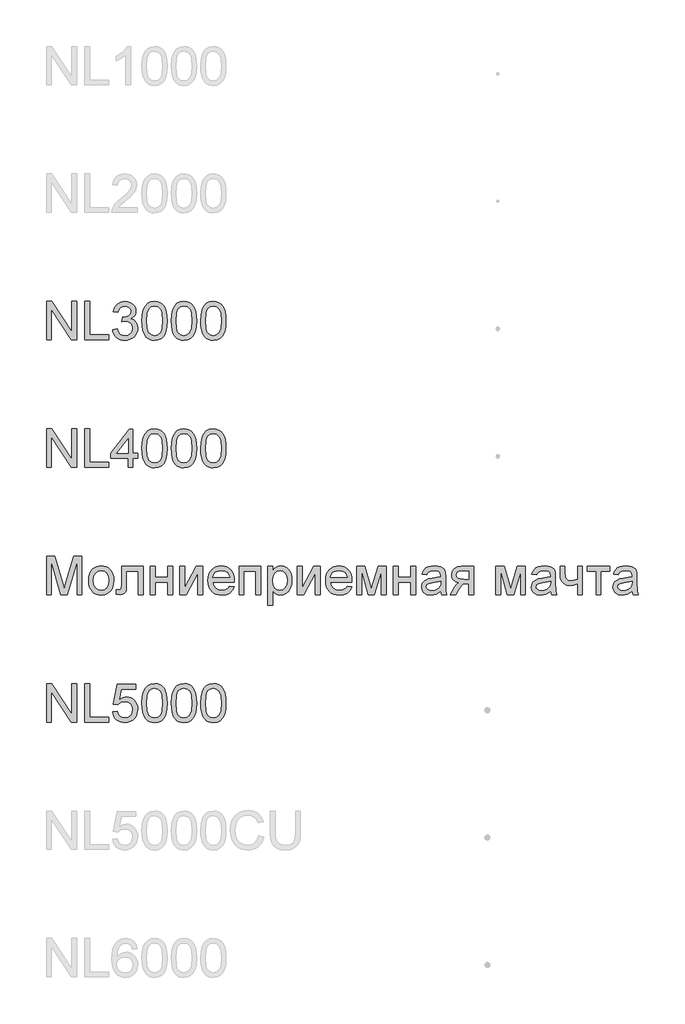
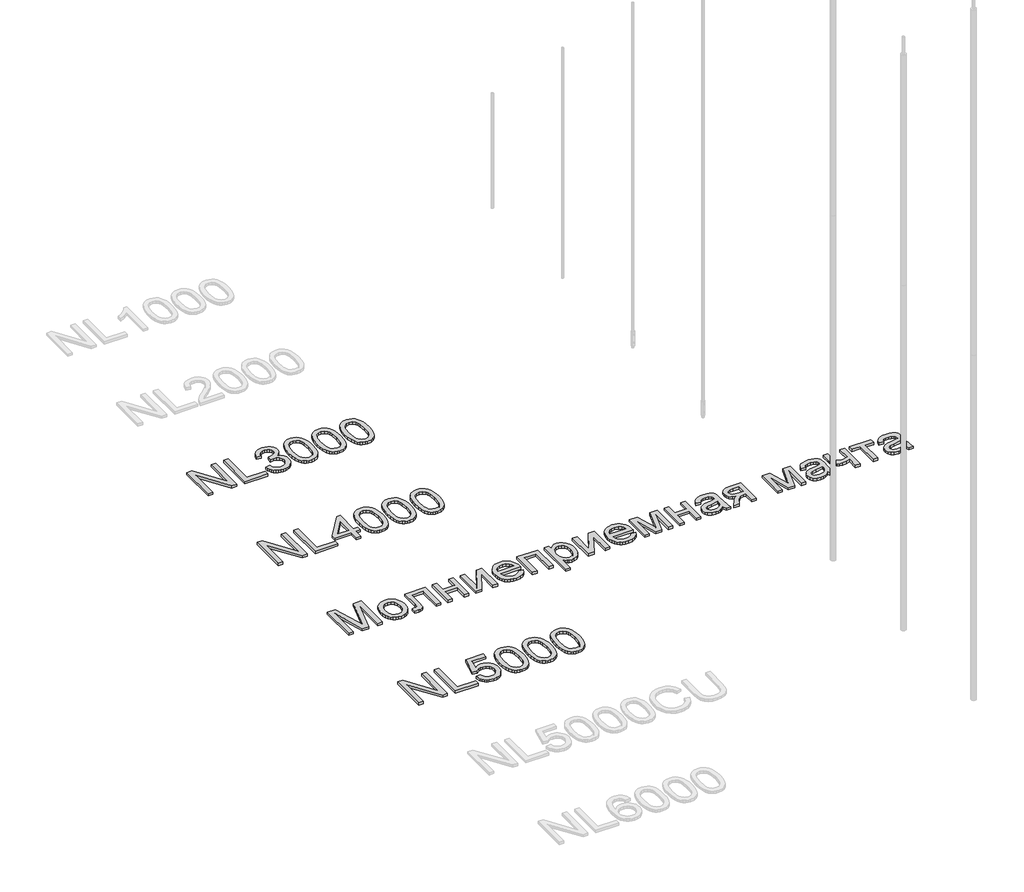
# One storey, part 39 of 124: 4 proxies.
"""IFC4 building model written with IfcOpenShell, lengths in millimetres."""

from ifc_helpers import new_model, si_unit, origin, origin_with_axes, place, context, project, spatial, polyline, outline, extrude, element, save

model = new_model("IFC4")

# Units and contexts
model_context = context("Model", 3, world=origin())
ifc_project = project(units=[si_unit("LENGTHUNIT", "METRE", prefix="MILLI")], contexts=[model_context])

# Site, building, storey
site = spatial("IfcSite", under=ifc_project)
building = spatial("IfcBuilding", under=site)
storey = spatial("IfcBuildingStorey", under=building, Name="Этаж 01", Elevation=0.0)

# Proxies
placement = place(None, origin())
element("IfcBuildingElementProxy", 1, Name="300", ObjectType="300", at=placement, inside=storey, context=model_context, shape_type="SweptSolid", body=[
    extrude(outline(polyline([(1299.8220677, -67074.498362), (1299.8220677, -66773.1294316), (1340.1419344, -66773.1294316), (1497.5954283, -67011.8848464), (1497.5954283, -66773.1294316), (1535.2665446, -66773.1294316), (1535.2665446, -67074.498362), (1494.9466779, -67074.498362), (1337.493184, -66835.6693707), (1337.493184, -67074.498362), (1299.8220677, -67074.498362)])), origin_with_axes(), (0.0, 0.0, 1.0), 20.0),
    extrude(outline(polyline([(1601.1909981, -67074.498362), (1601.1909981, -66773.1294316), (1638.8621144, -66773.1294316), (1638.8621144, -67036.8272457), (1789.5465797, -67036.8272457), (1789.5465797, -67074.498362), (1601.1909981, -67074.498362)])), origin_with_axes(), (0.0, 0.0, 1.0), 20.0),
    extrude(outline(polyline([(1817.7999169, -66994.4472399), (1855.4710332, -66989.7383503), (1863.9047279, -67013.4115567), (1876.2563659, -67029.3960294), (1893.1329525, -67038.5011088), (1915.1414928, -67041.5361352), (1940.9668089, -67037.3606746), (1960.906013, -67024.8342927), (1973.6531242, -67006.1458873), (1977.9021612, -66983.4843564), (1973.6899124, -66961.9724567), (1961.0531658, -66944.5256531), (1941.9233021, -66932.9649614), (1918.2317016, -66929.1113975), (1891.8177743, -66933.2316759), (1896.0116291, -66895.5605595), (1902.0448938, -66896.0020179), (1924.6144542, -66893.2980853), (1944.7927816, -66885.1862873), (1959.0298149, -66871.4642889), (1963.7754926, -66851.9297549), (1960.3357959, -66835.6601737), (1950.016706, -66822.4624071), (1934.2713566, -66813.7160127), (1914.5528816, -66810.8005479), (1894.7976185, -66813.7436038), (1878.6475989, -66822.5727717), (1866.856981, -66837.2880515), (1860.1799227, -66857.8894432), (1822.5088064, -66853.1805537), (1833.6004486, -66819.3538042), (1853.3373176, -66794.0987053), (1880.3398561, -66778.37175), (1913.2285065, -66773.1294316), (1936.9109099, -66775.7138026), (1958.6619329, -66783.4669156), (1977.0008503, -66795.698992), (1990.4469372, -66811.7202528), (1998.696691, -66830.178732), (2001.4466089, -66849.7224629), (1998.8346467, -66867.9326217), (1990.9987602, -66884.4505233), (1978.049314, -66898.5220096), (1960.0966726, -66909.3929226), (1983.6779085, -66918.9210662), (2001.1523033, -66935.1446622), (2011.968034, -66957.1807937), (2015.5732775, -66984.146544), (2013.7706557, -67003.2580136), (2008.3627904, -67020.8611671), (1999.3496815, -67036.9560044), (1986.7313291, -67051.5425255), (1971.3584602, -67063.6458431), (1954.081802, -67072.29107), (1934.9013545, -67077.4782062), (1913.8171176, -67079.2072515), (1894.7608303, -67077.731125), (1877.3968001, -67073.3027455), (1861.7250271, -67065.922113), (1847.7455113, -67055.5892274), (1836.0238712, -67042.9110942), (1827.1257255, -67028.4947185), (1821.051074, -67012.3401004), (1817.7999169, -66994.4472399)])), origin_with_axes(), (0.0, 0.0, 1.0), 20.0),
    extrude(outline(polyline([(2048.5355043, -66926.2419179), (2051.3038163, -66878.0033913), (2059.6087523, -66839.5321317), (2073.367539, -66810.2395278), (2092.4974027, -66789.5369685), (2117.1362993, -66777.2313158), (2147.4221846, -66773.1294316), (2170.6355385, -66775.5574527), (2191.4208712, -66782.8415162), (2208.8032955, -66794.6965135), (2221.807924, -66810.8373361), (2231.6303733, -66831.1260281), (2239.4662598, -66855.4246339), (2244.5982136, -66886.2807362), (2246.3088649, -66926.2419179), (2243.568144, -66974.2045331), (2235.3459814, -67012.5838222), (2221.6699683, -67041.9040172), (2202.5676957, -67062.68935), (2177.8736167, -67075.0777761), (2147.4221846, -67079.2072515), (2126.6736401, -67077.4138268), (2108.2795403, -67072.0335526), (2092.2398853, -67063.066429), (2078.5546751, -67050.5124559), (2065.4212879, -67027.8187353), (2056.040297, -66999.5424055), (2050.4117025, -66965.6834664), (2048.5355043, -66926.2419179)]), holes=[polyline([(2086.2066206, -66926.1683415), (2090.6212045, -66985.4249339), (2096.1394345, -67005.6929326), (2103.8649564, -67019.7207329), (2123.5834313, -67036.0822847), (2147.4221846, -67041.5361352), (2171.2609379, -67036.0638906), (2190.9794128, -67019.6471565), (2198.7049347, -67005.5963636), (2204.2231646, -66985.3329634), (2208.6377486, -66926.1683415), (2204.3703174, -66868.2453214), (2199.0360285, -66848.0440013), (2191.568024, -66833.682808), (2171.8863373, -66816.5211129), (2146.9807262, -66810.8005479), (2123.3994903, -66815.8405312), (2104.4535675, -66830.9604812), (2096.4705282, -66846.595466), (2090.7683573, -66867.6751043), (2086.2066206, -66926.1683415)])]), origin_with_axes(), (0.0, 0.0, 1.0), 20.0),
    extrude(outline(polyline([(2279.2710917, -66926.2419179), (2282.0394037, -66878.0033913), (2290.3443397, -66839.5321317), (2304.1031263, -66810.2395278), (2323.2329901, -66789.5369685), (2347.8718867, -66777.2313158), (2378.157772, -66773.1294316), (2401.3711259, -66775.5574527), (2422.1564586, -66782.8415162), (2439.5388829, -66794.6965135), (2452.5435114, -66810.8373361), (2462.3659607, -66831.1260281), (2470.2018471, -66855.4246339), (2475.333801, -66886.2807362), (2477.0444523, -66926.2419179), (2474.3037314, -66974.2045331), (2466.0815688, -67012.5838222), (2452.4055556, -67041.9040172), (2433.303283, -67062.68935), (2408.6092041, -67075.0777761), (2378.157772, -67079.2072515), (2357.4092274, -67077.4138268), (2339.0151277, -67072.0335526), (2322.9754727, -67063.066429), (2309.2902625, -67050.5124559), (2296.1568752, -67027.8187353), (2286.7758844, -66999.5424055), (2281.1472898, -66965.6834664), (2279.2710917, -66926.2419179)]), holes=[polyline([(2316.942208, -66926.1683415), (2321.3567919, -66985.4249339), (2326.8750218, -67005.6929326), (2334.6005437, -67019.7207329), (2354.3190187, -67036.0822847), (2378.157772, -67041.5361352), (2401.9965252, -67036.0638906), (2421.7150002, -67019.6471565), (2429.4405221, -67005.5963636), (2434.958752, -66985.3329634), (2439.373336, -66926.1683415), (2435.1059048, -66868.2453214), (2429.7716159, -66848.0440013), (2422.3036114, -66833.682808), (2402.6219246, -66816.5211129), (2377.7163136, -66810.8005479), (2354.1350777, -66815.8405312), (2335.1891549, -66830.9604812), (2327.2061156, -66846.595466), (2321.5039447, -66867.6751043), (2316.942208, -66926.1683415)])]), origin_with_axes(), (0.0, 0.0, 1.0), 20.0),
    extrude(outline(polyline([(2510.006679, -66926.2419179), (2512.774991, -66878.0033913), (2521.0799271, -66839.5321317), (2534.8387137, -66810.2395278), (2553.9685775, -66789.5369685), (2578.6074741, -66777.2313158), (2608.8933593, -66773.1294316), (2632.1067132, -66775.5574527), (2652.892046, -66782.8415162), (2670.2744702, -66794.6965135), (2683.2790988, -66810.8373361), (2693.101548, -66831.1260281), (2700.9374345, -66855.4246339), (2706.0693884, -66886.2807362), (2707.7800396, -66926.2419179), (2705.0393188, -66974.2045331), (2696.8171562, -67012.5838222), (2683.141143, -67041.9040172), (2664.0388704, -67062.68935), (2639.3447915, -67075.0777761), (2608.8933593, -67079.2072515), (2588.1448148, -67077.4138268), (2569.750715, -67072.0335526), (2553.7110601, -67063.066429), (2540.0258498, -67050.5124559), (2526.8924626, -67027.8187353), (2517.5114717, -66999.5424055), (2511.8828772, -66965.6834664), (2510.006679, -66926.2419179)]), holes=[polyline([(2547.6777953, -66926.1683415), (2552.0923793, -66985.4249339), (2557.6106092, -67005.6929326), (2565.3361311, -67019.7207329), (2585.054606, -67036.0822847), (2608.8933593, -67041.5361352), (2632.7321126, -67036.0638906), (2652.4505876, -67019.6471565), (2660.1761095, -67005.5963636), (2665.6943394, -66985.3329634), (2670.1089233, -66926.1683415), (2665.8414922, -66868.2453214), (2660.5072033, -66848.0440013), (2653.0391988, -66833.682808), (2633.357512, -66816.5211129), (2608.4519009, -66810.8005479), (2584.870665, -66815.8405312), (2565.9247423, -66830.9604812), (2557.941703, -66846.595466), (2552.2395321, -66867.6751043), (2547.6777953, -66926.1683415)])]), origin_with_axes(), (0.0, 0.0, 1.0), 20.0),
])
element("IfcBuildingElementProxy", 2, Name="300", ObjectType="300", at=placement, inside=storey, context=model_context, shape_type="SweptSolid", body=[
    extrude(outline(polyline([(1299.8220677, -68074.498362), (1299.8220677, -67773.1294316), (1340.1419344, -67773.1294316), (1497.5954283, -68011.8848464), (1497.5954283, -67773.1294316), (1535.2665446, -67773.1294316), (1535.2665446, -68074.498362), (1494.9466779, -68074.498362), (1337.493184, -67835.6693707), (1337.493184, -68074.498362), (1299.8220677, -68074.498362)])), origin_with_axes(), (0.0, 0.0, 1.0), 20.0),
    extrude(outline(polyline([(1601.1909981, -68074.498362), (1601.1909981, -67773.1294316), (1638.8621144, -67773.1294316), (1638.8621144, -68036.8272457), (1789.5465797, -68036.8272457), (1789.5465797, -68074.498362), (1601.1909981, -68074.498362)])), origin_with_axes(), (0.0, 0.0, 1.0), 20.0),
    extrude(outline(polyline([(1940.2310449, -68074.498362), (1940.2310449, -68003.8650189), (1803.6732483, -68003.8650189), (1803.6732483, -67966.1939026), (1949.648824, -67777.8383211), (1977.9021612, -67777.8383211), (1977.9021612, -67966.1939026), (2015.5732775, -67966.1939026), (2015.5732775, -68003.8650189), (1977.9021612, -68003.8650189), (1977.9021612, -68074.498362), (1940.2310449, -68074.498362)]), holes=[polyline([(1940.2310449, -67966.1939026), (1940.2310449, -67849.7960393), (1850.0263797, -67966.1939026), (1940.2310449, -67966.1939026)])]), origin_with_axes(), (0.0, 0.0, 1.0), 20.0),
    extrude(outline(polyline([(2048.5355043, -67926.2419179), (2051.3038163, -67878.0033913), (2059.6087523, -67839.5321317), (2073.367539, -67810.2395278), (2092.4974027, -67789.5369685), (2117.1362993, -67777.2313158), (2147.4221846, -67773.1294316), (2170.6355385, -67775.5574527), (2191.4208712, -67782.8415162), (2208.8032955, -67794.6965135), (2221.807924, -67810.8373361), (2231.6303733, -67831.1260281), (2239.4662598, -67855.4246339), (2244.5982136, -67886.2807362), (2246.3088649, -67926.2419179), (2243.568144, -67974.2045331), (2235.3459814, -68012.5838222), (2221.6699683, -68041.9040172), (2202.5676957, -68062.68935), (2177.8736167, -68075.0777761), (2147.4221846, -68079.2072515), (2126.6736401, -68077.4138268), (2108.2795403, -68072.0335526), (2092.2398853, -68063.066429), (2078.5546751, -68050.5124559), (2065.4212879, -68027.8187353), (2056.040297, -67999.5424055), (2050.4117025, -67965.6834664), (2048.5355043, -67926.2419179)]), holes=[polyline([(2086.2066206, -67926.1683415), (2090.6212045, -67985.4249339), (2096.1394345, -68005.6929326), (2103.8649564, -68019.7207329), (2123.5834313, -68036.0822847), (2147.4221846, -68041.5361352), (2171.2609379, -68036.0638906), (2190.9794128, -68019.6471565), (2198.7049347, -68005.5963636), (2204.2231646, -67985.3329634), (2208.6377486, -67926.1683415), (2204.3703174, -67868.2453214), (2199.0360285, -67848.0440013), (2191.568024, -67833.682808), (2171.8863373, -67816.5211129), (2146.9807262, -67810.8005479), (2123.3994903, -67815.8405312), (2104.4535675, -67830.9604812), (2096.4705282, -67846.595466), (2090.7683573, -67867.6751043), (2086.2066206, -67926.1683415)])]), origin_with_axes(), (0.0, 0.0, 1.0), 20.0),
    extrude(outline(polyline([(2279.2710917, -67926.2419179), (2282.0394037, -67878.0033913), (2290.3443397, -67839.5321317), (2304.1031263, -67810.2395278), (2323.2329901, -67789.5369685), (2347.8718867, -67777.2313158), (2378.157772, -67773.1294316), (2401.3711259, -67775.5574527), (2422.1564586, -67782.8415162), (2439.5388829, -67794.6965135), (2452.5435114, -67810.8373361), (2462.3659607, -67831.1260281), (2470.2018471, -67855.4246339), (2475.333801, -67886.2807362), (2477.0444523, -67926.2419179), (2474.3037314, -67974.2045331), (2466.0815688, -68012.5838222), (2452.4055556, -68041.9040172), (2433.303283, -68062.68935), (2408.6092041, -68075.0777761), (2378.157772, -68079.2072515), (2357.4092274, -68077.4138268), (2339.0151277, -68072.0335526), (2322.9754727, -68063.066429), (2309.2902625, -68050.5124559), (2296.1568752, -68027.8187353), (2286.7758844, -67999.5424055), (2281.1472898, -67965.6834664), (2279.2710917, -67926.2419179)]), holes=[polyline([(2316.942208, -67926.1683415), (2321.3567919, -67985.4249339), (2326.8750218, -68005.6929326), (2334.6005437, -68019.7207329), (2354.3190187, -68036.0822847), (2378.157772, -68041.5361352), (2401.9965252, -68036.0638906), (2421.7150002, -68019.6471565), (2429.4405221, -68005.5963636), (2434.958752, -67985.3329634), (2439.373336, -67926.1683415), (2435.1059048, -67868.2453214), (2429.7716159, -67848.0440013), (2422.3036114, -67833.682808), (2402.6219246, -67816.5211129), (2377.7163136, -67810.8005479), (2354.1350777, -67815.8405312), (2335.1891549, -67830.9604812), (2327.2061156, -67846.595466), (2321.5039447, -67867.6751043), (2316.942208, -67926.1683415)])]), origin_with_axes(), (0.0, 0.0, 1.0), 20.0),
    extrude(outline(polyline([(2510.006679, -67926.2419179), (2512.774991, -67878.0033913), (2521.0799271, -67839.5321317), (2534.8387137, -67810.2395278), (2553.9685775, -67789.5369685), (2578.6074741, -67777.2313158), (2608.8933593, -67773.1294316), (2632.1067132, -67775.5574527), (2652.892046, -67782.8415162), (2670.2744702, -67794.6965135), (2683.2790988, -67810.8373361), (2693.101548, -67831.1260281), (2700.9374345, -67855.4246339), (2706.0693884, -67886.2807362), (2707.7800396, -67926.2419179), (2705.0393188, -67974.2045331), (2696.8171562, -68012.5838222), (2683.141143, -68041.9040172), (2664.0388704, -68062.68935), (2639.3447915, -68075.0777761), (2608.8933593, -68079.2072515), (2588.1448148, -68077.4138268), (2569.750715, -68072.0335526), (2553.7110601, -68063.066429), (2540.0258498, -68050.5124559), (2526.8924626, -68027.8187353), (2517.5114717, -67999.5424055), (2511.8828772, -67965.6834664), (2510.006679, -67926.2419179)]), holes=[polyline([(2547.6777953, -67926.1683415), (2552.0923793, -67985.4249339), (2557.6106092, -68005.6929326), (2565.3361311, -68019.7207329), (2585.054606, -68036.0822847), (2608.8933593, -68041.5361352), (2632.7321126, -68036.0638906), (2652.4505876, -68019.6471565), (2660.1761095, -68005.5963636), (2665.6943394, -67985.3329634), (2670.1089233, -67926.1683415), (2665.8414922, -67868.2453214), (2660.5072033, -67848.0440013), (2653.0391988, -67833.682808), (2633.357512, -67816.5211129), (2608.4519009, -67810.8005479), (2584.870665, -67815.8405312), (2565.9247423, -67830.9604812), (2557.941703, -67846.595466), (2552.2395321, -67867.6751043), (2547.6777953, -67926.1683415)])]), origin_with_axes(), (0.0, 0.0, 1.0), 20.0),
])
element("IfcBuildingElementProxy", 3, Name="300", ObjectType="300", at=placement, inside=storey, context=model_context, shape_type="SweptSolid", body=[
    extrude(outline(polyline([(1299.8220677, -69074.498362), (1299.8220677, -68773.1294316), (1364.6428752, -68773.1294316), (1426.2998976, -68985.5444956), (1438.7343091, -69029.9110642), (1452.1987901, -68981.8656756), (1512.8257429, -68773.1294316), (1577.6465505, -68773.1294316), (1577.6465505, -69074.498362), (1539.9754341, -69074.498362), (1539.9754341, -68810.8005479), (1464.2653195, -69074.498362), (1413.2032986, -69074.498362), (1337.493184, -68810.8005479), (1337.493184, -69074.498362), (1299.8220677, -69074.498362)])), origin_with_axes(), (0.0, 0.0, 1.0), 20.0),
    extrude(outline(polyline([(1629.4443354, -68963.8394579), (1631.4814819, -68935.1768519), (1637.5929216, -68910.4781745), (1647.7786543, -68889.7434255), (1662.0386801, -68872.972605), (1676.395275, -68862.2534434), (1692.2417919, -68854.5968994), (1709.578231, -68850.002973), (1728.4045921, -68848.4716642), (1749.1876255, -68850.336366), (1767.9794977, -68855.9304716), (1784.7802086, -68865.2539809), (1799.5897581, -68878.306894), (1811.6769809, -68894.6477523), (1820.3107115, -68913.8350977), (1825.4909499, -68935.8689299), (1827.217696, -68960.7492491), (1824.1642754, -68998.8066415), (1815.0040137, -69027.7773486), (1800.0036254, -69049.4731893), (1779.4298248, -69065.7059823), (1754.9932633, -69075.8319342), (1728.4045921, -69079.2072515), (1707.318056, -69077.3494475), (1688.3514398, -69071.7760352), (1671.5047437, -69062.4870149), (1656.7779676, -69049.4823863), (1644.8195035, -69032.9828788), (1636.2777434, -69013.2092216), (1631.1526874, -68990.1614146), (1629.4443354, -68963.8394579)]), holes=[polyline([(1667.1154517, -68963.7658815), (1671.4748533, -68997.8593454), (1684.5530582, -69022.1487541), (1704.234745, -69036.6892899), (1728.4045921, -69041.5361352), (1752.4640746, -69036.6616988), (1772.1089731, -69022.0383895), (1785.187178, -68997.427084), (1789.5465797, -68962.5886591), (1785.1595869, -68929.4884766), (1771.9986085, -68905.5301616), (1752.3261188, -68890.9896258), (1728.4045921, -68886.1427805), (1704.234745, -68890.9712317), (1684.5530582, -68905.4565852), (1671.4748533, -68929.6908117), (1667.1154517, -68963.7658815)])]), origin_with_axes(), (0.0, 0.0, 1.0), 20.0),
    extrude(outline(polyline([(1888.43326, -68853.1805537), (2057.9532834, -68853.1805537), (2057.9532834, -69074.2776328), (2020.282167, -69074.2776328), (2020.282167, -68890.85167), (1926.1043763, -68890.85167), (1926.1043763, -68996.4338026), (1923.5659905, -69045.1413788), (1918.8111157, -69056.1686416), (1909.6232629, -69065.7059823), (1895.6805353, -69072.3002671), (1876.6610361, -69074.498362), (1846.0532541, -69072.5853756), (1846.0532541, -69036.8272457), (1862.9022495, -69036.8272457), (1879.9351859, -69034.5095891), (1886.7410028, -69027.1519492), (1888.43326, -68994.3000871), (1888.43326, -68853.1805537)])), origin_with_axes(), (0.0, 0.0, 1.0), 20.0),
    extrude(outline(polyline([(2114.4599578, -68853.1805537), (2152.1310741, -68853.1805537), (2152.1310741, -68937.9405654), (2251.0177544, -68937.9405654), (2251.0177544, -68853.1805537), (2288.6888707, -68853.1805537), (2288.6888707, -69074.498362), (2251.0177544, -69074.498362), (2251.0177544, -68975.6116817), (2152.1310741, -68975.6116817), (2152.1310741, -69074.498362), (2114.4599578, -69074.498362), (2114.4599578, -68853.1805537)])), origin_with_axes(), (0.0, 0.0, 1.0), 20.0),
    extrude(outline(polyline([(2345.1955452, -68853.1805537), (2382.8666615, -68853.1805537), (2382.8666615, -69021.9648131), (2475.4257715, -68853.1805537), (2524.1333476, -68853.1805537), (2524.1333476, -69074.498362), (2486.4622313, -69074.498362), (2486.4622313, -68906.7441722), (2394.4917325, -69074.498362), (2345.1955452, -69074.498362), (2345.1955452, -68853.1805537)])), origin_with_axes(), (0.0, 0.0, 1.0), 20.0),
    extrude(outline(polyline([(2735.5919185, -69008.5739085), (2772.5272708, -69013.282798), (2759.2191396, -69041.1130709), (2737.9831514, -69061.9167978), (2709.2975529, -69074.8846381), (2673.6405905, -69079.2072515), (2650.2662882, -69077.3425497), (2629.4395688, -69071.7484441), (2611.1604321, -69062.4249348), (2595.4288783, -69049.3720217), (2582.7783362, -69032.9529884), (2573.7422347, -69013.5311184), (2568.3205738, -68991.1064115), (2566.5133535, -68965.6788678), (2568.3389679, -68939.3891007), (2573.8158111, -68916.2171336), (2582.9438831, -68896.1629663), (2595.7231839, -68879.226599), (2611.413351, -68865.771315), (2629.2740219, -68856.1603979), (2649.3051965, -68850.3938476), (2671.5068749, -68848.4716642), (2692.9934827, -68850.3892491), (2712.4245498, -68856.1420038), (2729.8000763, -68865.7299283), (2745.1200621, -68879.1530226), (2757.6257507, -68896.0526017), (2766.5583854, -68916.0699808), (2771.9179662, -68939.2051598), (2773.7044932, -68965.4581386), (2773.483764, -68975.6116817), (2604.1844698, -68975.6116817), (2610.7051782, -69003.8098366), (2625.8527193, -69024.5399871), (2647.7141069, -69037.2870982), (2674.3763545, -69041.5361352), (2694.4259232, -69039.5679666), (2711.3117068, -69033.6634605), (2725.0337052, -69023.4547352), (2735.5919185, -69008.5739085)]), holes=[polyline([(2604.1844698, -68937.9405654), (2736.0333769, -68937.9405654), (2730.9382112, -68918.0381495), (2720.9502151, -68903.8011162), (2698.9876599, -68890.5573644), (2671.3597221, -68886.1427805), (2645.9666674, -68889.6652506), (2624.9698025, -68900.2326609), (2610.3740844, -68916.7045772), (2604.1844698, -68937.9405654)])]), origin_with_axes(), (0.0, 0.0, 1.0), 20.0),
    extrude(outline(polyline([(2811.3756095, -68853.1805537), (2980.8956329, -68853.1805537), (2980.8956329, -69074.498362), (2943.2245165, -69074.498362), (2943.2245165, -68890.85167), (2849.0467258, -68890.85167), (2849.0467258, -69074.498362), (2811.3756095, -69074.498362), (2811.3756095, -68853.1805537)])), origin_with_axes(), (0.0, 0.0, 1.0), 20.0),
    extrude(outline(polyline([(3037.4023073, -69159.2583737), (3037.4023073, -68853.1805537), (3075.0734236, -68853.1805537), (3075.0734236, -68890.115906), (3087.3606823, -68871.8965502), (3101.1194689, -68858.8827246), (3117.1591239, -68851.0744293), (3136.2889876, -68848.4716642), (3161.7648158, -68852.1136959), (3184.0400706, -68863.0397912), (3202.176653, -68880.5877623), (3215.2364638, -68904.0954218), (3223.1275326, -68931.8521184), (3225.7578888, -68962.1472007), (3222.7872417, -68994.3644664), (3213.8753004, -69023.1788237), (3199.3071734, -69047.1279416), (3179.3679693, -69064.7494891), (3156.1454183, -69075.5928109), (3131.7272509, -69079.2072515), (3114.409206, -69076.7884274), (3098.9489651, -69069.5319551), (3085.7144103, -69058.5782687), (3075.0734236, -69045.0678024), (3075.0734236, -69159.2583737), (3037.4023073, -69159.2583737)]), holes=[polyline([(3075.0734236, -68965.6052914), (3079.1477167, -68999.3768586), (3091.370596, -69022.9948827), (3109.4060108, -69036.9008221), (3130.9179105, -69041.5361352), (3152.7792981, -69036.7352752), (3171.2745654, -69022.3326951), (3183.8837207, -68997.8501483), (3188.0867725, -68962.8093883), (3183.9848883, -68929.2217621), (3171.6792356, -68905.2726442), (3153.6714119, -68890.9252464), (3132.4630149, -68886.1427805), (3111.1718444, -68891.2287491), (3092.474242, -68906.4866548), (3079.4236282, -68931.4382511), (3075.0734236, -68965.6052914)])]), origin_with_axes(), (0.0, 0.0, 1.0), 20.0),
    extrude(outline(polyline([(3268.1378947, -68853.1805537), (3305.809011, -68853.1805537), (3305.809011, -69021.9648131), (3398.368121, -68853.1805537), (3447.0756971, -68853.1805537), (3447.0756971, -69074.498362), (3409.4045808, -69074.498362), (3409.4045808, -68906.7441722), (3317.434082, -69074.498362), (3268.1378947, -69074.498362), (3268.1378947, -68853.1805537)])), origin_with_axes(), (0.0, 0.0, 1.0), 20.0),
    extrude(outline(polyline([(3658.534268, -69008.5739085), (3695.4696203, -69013.282798), (3682.1614891, -69041.1130709), (3660.9255009, -69061.9167978), (3632.2399024, -69074.8846381), (3596.58294, -69079.2072515), (3573.2086377, -69077.3425497), (3552.3819183, -69071.7484441), (3534.1027816, -69062.4249348), (3518.3712278, -69049.3720217), (3505.7206857, -69032.9529884), (3496.6845842, -69013.5311184), (3491.2629233, -68991.1064115), (3489.455703, -68965.6788678), (3491.2813174, -68939.3891007), (3496.7581606, -68916.2171336), (3505.8862326, -68896.1629663), (3518.6655334, -68879.226599), (3534.3557005, -68865.771315), (3552.2163714, -68856.1603979), (3572.247546, -68850.3938476), (3594.4492244, -68848.4716642), (3615.9358322, -68850.3892491), (3635.3668993, -68856.1420038), (3652.7424258, -68865.7299283), (3668.0624116, -68879.1530226), (3680.5681002, -68896.0526017), (3689.5007349, -68916.0699808), (3694.8603157, -68939.2051598), (3696.6468427, -68965.4581386), (3696.4261135, -68975.6116817), (3527.1268193, -68975.6116817), (3533.6475277, -69003.8098366), (3548.7950688, -69024.5399871), (3570.6564564, -69037.2870982), (3597.318704, -69041.5361352), (3617.3682727, -69039.5679666), (3634.2540563, -69033.6634605), (3647.9760547, -69023.4547352), (3658.534268, -69008.5739085)]), holes=[polyline([(3527.1268193, -68937.9405654), (3658.9757264, -68937.9405654), (3653.8805607, -68918.0381495), (3643.8925646, -68903.8011162), (3621.9300094, -68890.5573644), (3594.3020716, -68886.1427805), (3568.9090169, -68889.6652506), (3547.912152, -68900.2326609), (3533.3164339, -68916.7045772), (3527.1268193, -68937.9405654)])]), origin_with_axes(), (0.0, 0.0, 1.0), 20.0),
    extrude(outline(polyline([(3734.317959, -68853.1805537), (3799.1387665, -68853.1805537), (3849.0971415, -69030.3525226), (3902.9550656, -68853.1805537), (3965.0535464, -68853.1805537), (3965.0535464, -69074.498362), (3927.38243, -69074.498362), (3927.38243, -68896.2963235), (3873.2302004, -69074.498362), (3823.7868602, -69074.498362), (3771.9890753, -68887.7614613), (3771.9890753, -69074.498362), (3734.317959, -69074.498362), (3734.317959, -68853.1805537)])), origin_with_axes(), (0.0, 0.0, 1.0), 20.0),
    extrude(outline(polyline([(4021.5602208, -68853.1805537), (4059.2313371, -68853.1805537), (4059.2313371, -68937.9405654), (4158.1180174, -68937.9405654), (4158.1180174, -68853.1805537), (4195.7891337, -68853.1805537), (4195.7891337, -69074.498362), (4158.1180174, -69074.498362), (4158.1180174, -68975.6116817), (4059.2313371, -68975.6116817), (4059.2313371, -69074.498362), (4021.5602208, -69074.498362), (4021.5602208, -68853.1805537)])), origin_with_axes(), (0.0, 0.0, 1.0), 20.0),
    extrude(outline(polyline([(4393.5624943, -69046.2450248), (4375.5638677, -69061.6776745), (4357.0318122, -69071.7760352), (4337.5432635, -69077.3494475), (4316.6751573, -69079.2072515), (4285.1936556, -69074.7374853), (4261.9711047, -69061.3281866), (4247.651298, -69040.9659181), (4242.8780291, -69015.6372428), (4244.6806509, -69000.0206521), (4250.0885162, -68985.8388012), (4258.4302405, -68973.6986953), (4269.034439, -68964.2073398), (4295.411578, -68951.8465048), (4328.0059228, -68946.1811221), (4366.5231677, -68940.2214338), (4393.3417651, -68933.2316759), (4393.5624943, -68924.8439664), (4390.9689263, -68908.0317592), (4383.1882221, -68897.0320875), (4365.7874037, -68888.8651072), (4341.5439802, -68886.1427805), (4319.1031785, -68887.9545993), (4303.4314055, -68893.3900558), (4292.7444336, -68903.4424313), (4285.258035, -68919.1050072), (4247.5869186, -68914.3961177), (4254.1260211, -68893.794726), (4263.884091, -68877.6079182), (4277.7716364, -68865.228689), (4296.699165, -68856.0500333), (4319.8481395, -68850.3662564), (4346.4000226, -68848.4716642), (4371.8666537, -68850.1455272), (4392.0541782, -68855.1671165), (4407.2752957, -68862.7178944), (4417.842706, -68871.9793237), (4424.850858, -68883.4296508), (4429.3942007, -68897.5471223), (4431.2336106, -68930.5093491), (4431.2336106, -68977.3775153), (4433.146597, -69042.8237222), (4440.6513897, -69074.498362), (4402.9802734, -69074.498362), (4393.5624943, -69046.2450248)]), holes=[polyline([(4393.5624943, -68970.9027922), (4332.7883887, -68982.4542868), (4300.377985, -68988.5611279), (4285.6994933, -68998.4939418), (4280.5491454, -69012.9884924), (4283.3542456, -69024.1904992), (4291.7695463, -69033.3691549), (4305.6111063, -69039.4943902), (4324.6949848, -69041.5361352), (4344.9284946, -69039.282858), (4362.8075595, -69032.5230264), (4377.3021101, -69022.5626213), (4387.3820768, -69010.707624), (4391.8518431, -68998.4939418), (4393.3417651, -68981.57137), (4393.5624943, -68970.9027922)])]), origin_with_axes(), (0.0, 0.0, 1.0), 20.0),
    extrude(outline(polyline([(4652.5514189, -68853.1805537), (4652.5514189, -69074.498362), (4614.8803026, -69074.498362), (4614.8803026, -68989.7383503), (4594.3524873, -68989.7383503), (4566.3934557, -68994.5208163), (4555.2282371, -69004.9502708), (4540.1266812, -69026.6737026), (4510.1075104, -69074.498362), (4466.5502822, -69074.498362), (4504.3685513, -69014.018562), (4521.0703939, -68992.3135243), (4536.4478613, -68982.675016), (4510.6961216, -68974.7839472), (4492.5963274, -68959.7927559), (4481.8909614, -68939.8535518), (4478.322506, -68917.1184445), (4483.1969425, -68891.3299166), (4497.8202518, -68870.9124659), (4521.6773992, -68857.6135317), (4554.2533498, -68853.1805537), (4652.5514189, -68853.1805537)]), holes=[polyline([(4614.8803026, -68890.85167), (4565.2162333, -68890.85167), (4539.5656612, -68893.0313708), (4525.0067312, -68899.5704733), (4518.2468995, -68909.0342376), (4515.9936223, -68919.987924), (4519.3137573, -68934.3445189), (4529.2741624, -68944.3049239), (4547.6774592, -68950.1266565), (4576.3262695, -68952.067234), (4614.8803026, -68952.067234), (4614.8803026, -68890.85167)])]), origin_with_axes(), (0.0, 0.0, 1.0), 20.0),
    extrude(outline(polyline([(4826.7803319, -68853.1805537), (4891.6011394, -68853.1805537), (4941.5595143, -69030.3525226), (4995.4174384, -68853.1805537), (5057.5159192, -68853.1805537), (5057.5159192, -69074.498362), (5019.8448029, -69074.498362), (5019.8448029, -68896.2963235), (4965.6925732, -69074.498362), (4916.2492331, -69074.498362), (4864.4514482, -68887.7614613), (4864.4514482, -69074.498362), (4826.7803319, -69074.498362), (4826.7803319, -68853.1805537)])), origin_with_axes(), (0.0, 0.0, 1.0), 20.0),
    extrude(outline(polyline([(5255.2892798, -69046.2450248), (5237.2906532, -69061.6776745), (5218.7585977, -69071.7760352), (5199.270049, -69077.3494475), (5178.4019428, -69079.2072515), (5146.9204411, -69074.7374853), (5123.6978902, -69061.3281866), (5109.3780835, -69040.9659181), (5104.6048146, -69015.6372428), (5106.4074364, -69000.0206521), (5111.8153017, -68985.8388012), (5120.157026, -68973.6986953), (5130.7612245, -68964.2073398), (5157.1383635, -68951.8465048), (5189.7327083, -68946.1811221), (5228.2499532, -68940.2214338), (5255.0685506, -68933.2316759), (5255.2892798, -68924.8439664), (5252.6957118, -68908.0317592), (5244.9150076, -68897.0320875), (5227.5141892, -68888.8651072), (5203.2707657, -68886.1427805), (5180.829964, -68887.9545993), (5165.158191, -68893.3900558), (5154.4712191, -68903.4424313), (5146.9848205, -68919.1050072), (5109.3137041, -68914.3961177), (5115.8528066, -68893.794726), (5125.6108765, -68877.6079182), (5139.4984219, -68865.228689), (5158.4259505, -68856.0500333), (5181.5749251, -68850.3662564), (5208.1268081, -68848.4716642), (5233.5934392, -68850.1455272), (5253.7809637, -68855.1671165), (5269.0020812, -68862.7178944), (5279.5694915, -68871.9793237), (5286.5776435, -68883.4296508), (5291.1209862, -68897.5471223), (5292.9603961, -68930.5093491), (5292.9603961, -68977.3775153), (5294.8733825, -69042.8237222), (5302.3781752, -69074.498362), (5264.7070589, -69074.498362), (5255.2892798, -69046.2450248)]), holes=[polyline([(5255.2892798, -68970.9027922), (5194.5151742, -68982.4542868), (5162.1047705, -68988.5611279), (5147.4262788, -68998.4939418), (5142.2759309, -69012.9884924), (5145.0810311, -69024.1904992), (5153.4963318, -69033.3691549), (5167.3378918, -69039.4943902), (5186.4217703, -69041.5361352), (5206.6552801, -69039.282858), (5224.534345, -69032.5230264), (5239.0288956, -69022.5626213), (5249.1088623, -69010.707624), (5253.5786286, -68998.4939418), (5255.0685506, -68981.57137), (5255.2892798, -68970.9027922)])]), origin_with_axes(), (0.0, 0.0, 1.0), 20.0),
    extrude(outline(polyline([(5330.6315124, -68853.1805537), (5368.3026288, -68853.1805537), (5368.3026288, -68895.6341359), (5371.3560493, -68935.4389678), (5376.5523825, -68947.0088566), (5386.0345409, -68956.9968527), (5399.1311399, -68963.8946402), (5415.1707949, -68966.1939026), (5438.2186019, -68963.3428172), (5467.1893091, -68954.7895608), (5467.1893091, -68853.1805537), (5504.8604254, -68853.1805537), (5504.8604254, -69074.498362), (5467.1893091, -69074.498362), (5467.1893091, -68990.9155727), (5435.0364227, -69000.6276574), (5405.0908283, -69003.8650189), (5382.3097357, -69000.4897016), (5362.3797286, -68990.3637497), (5346.8459114, -68975.3449673), (5337.2533884, -68957.2911583), (5332.2869814, -68936.7449489), (5330.6315124, -68914.2489649), (5330.6315124, -68853.1805537)])), origin_with_axes(), (0.0, 0.0, 1.0), 20.0),
    extrude(outline(polyline([(5542.5315417, -68853.1805537), (5721.4693441, -68853.1805537), (5721.4693441, -68890.85167), (5650.836001, -68890.85167), (5650.836001, -69074.498362), (5613.1648847, -69074.498362), (5613.1648847, -68890.85167), (5542.5315417, -68890.85167), (5542.5315417, -68853.1805537)])), origin_with_axes(), (0.0, 0.0, 1.0), 20.0),
    extrude(outline(polyline([(5895.698257, -69046.2450248), (5877.6996304, -69061.6776745), (5859.1675749, -69071.7760352), (5839.6790262, -69077.3494475), (5818.81092, -69079.2072515), (5787.3294183, -69074.7374853), (5764.1068674, -69061.3281866), (5749.7870607, -69040.9659181), (5745.0137918, -69015.6372428), (5746.8164136, -69000.0206521), (5752.2242789, -68985.8388012), (5760.5660032, -68973.6986953), (5771.1702017, -68964.2073398), (5797.5473407, -68951.8465048), (5830.1416855, -68946.1811221), (5868.6589304, -68940.2214338), (5895.4775278, -68933.2316759), (5895.698257, -68924.8439664), (5893.104689, -68908.0317592), (5885.3239848, -68897.0320875), (5867.9231664, -68888.8651072), (5843.6797429, -68886.1427805), (5821.2389412, -68887.9545993), (5805.5671682, -68893.3900558), (5794.8801963, -68903.4424313), (5787.3937977, -68919.1050072), (5749.7226814, -68914.3961177), (5756.2617838, -68893.794726), (5766.0198537, -68877.6079182), (5779.9073991, -68865.228689), (5798.8349277, -68856.0500333), (5821.9839023, -68850.3662564), (5848.5357853, -68848.4716642), (5874.0024164, -68850.1455272), (5894.1899409, -68855.1671165), (5909.4110584, -68862.7178944), (5919.9784687, -68871.9793237), (5926.9866207, -68883.4296508), (5931.5299634, -68897.5471223), (5933.3693733, -68930.5093491), (5933.3693733, -68977.3775153), (5935.2823597, -69042.8237222), (5942.7871524, -69074.498362), (5905.1160361, -69074.498362), (5895.698257, -69046.2450248)]), holes=[polyline([(5895.698257, -68970.9027922), (5834.9241514, -68982.4542868), (5802.5137477, -68988.5611279), (5787.8352561, -68998.4939418), (5782.6849081, -69012.9884924), (5785.4900083, -69024.1904992), (5793.905309, -69033.3691549), (5807.746869, -69039.4943902), (5826.8307475, -69041.5361352), (5847.0642573, -69039.282858), (5864.9433222, -69032.5230264), (5879.4378729, -69022.5626213), (5889.5178395, -69010.707624), (5893.9876058, -68998.4939418), (5895.4775278, -68981.57137), (5895.698257, -68970.9027922)])]), origin_with_axes(), (0.0, 0.0, 1.0), 20.0),
])
element("IfcBuildingElementProxy", 4, Name="300", ObjectType="300", at=placement, inside=storey, context=model_context, shape_type="SweptSolid", body=[
    extrude(outline(polyline([(1299.8220677, -70074.498362), (1299.8220677, -69773.1294316), (1340.1419344, -69773.1294316), (1497.5954283, -70011.8848464), (1497.5954283, -69773.1294316), (1535.2665446, -69773.1294316), (1535.2665446, -70074.498362), (1494.9466779, -70074.498362), (1337.493184, -69835.6693707), (1337.493184, -70074.498362), (1299.8220677, -70074.498362)])), origin_with_axes(), (0.0, 0.0, 1.0), 20.0),
    extrude(outline(polyline([(1601.1909981, -70074.498362), (1601.1909981, -69773.1294316), (1638.8621144, -69773.1294316), (1638.8621144, -70036.8272457), (1789.5465797, -70036.8272457), (1789.5465797, -70074.498362), (1601.1909981, -70074.498362)])), origin_with_axes(), (0.0, 0.0, 1.0), 20.0),
    extrude(outline(polyline([(1817.7999169, -69994.4472399), (1855.4710332, -69989.7383503), (1862.3872147, -70012.353896), (1874.4537442, -70028.5499008), (1891.6154392, -70038.2895766), (1913.8171176, -70041.5361352), (1940.8196561, -70037.0203837), (1961.0531658, -70023.4731293), (1973.6899124, -70002.4578703), (1977.9021612, -69975.5381053), (1973.9566268, -69950.1910358), (1962.1200236, -69930.8036547), (1942.3003811, -69918.4980019), (1914.4057288, -69914.3961177), (1896.1311907, -69916.0331926), (1881.3331375, -69920.9444172), (1860.1799227, -69937.9405654), (1822.5088064, -69933.2316759), (1855.4710332, -69777.8383211), (2001.4466089, -69777.8383211), (2001.4466089, -69815.5094374), (1885.9316624, -69815.5094374), (1869.818431, -69898.5036155), (1896.728999, -69882.1696549), (1924.9271539, -69876.7250014), (1943.2729691, -69878.41266), (1960.1242638, -69883.475636), (1975.4810378, -69891.9139293), (1989.3432913, -69903.7275398), (2000.8189102, -69918.1944993), (2009.0157809, -69934.5928392), (2013.9339034, -69952.9225596), (2015.5732775, -69973.1836605), (2009.6687715, -70010.8547768), (2002.288139, -70027.6485899), (1991.9552534, -70043.0812396), (1976.3018745, -70058.8863698), (1958.0365335, -70070.1757486), (1937.1592302, -70076.9493758), (1913.6699648, -70079.2072515), (1876.6702332, -70073.4039131), (1860.9915624, -70066.14974), (1847.1936883, -70055.9938976), (1835.7134708, -70043.4422238), (1826.9877697, -70029.0005562), (1817.7999169, -69994.4472399)])), origin_with_axes(), (0.0, 0.0, 1.0), 20.0),
    extrude(outline(polyline([(2048.5355043, -69926.2419179), (2051.3038163, -69878.0033913), (2059.6087523, -69839.5321317), (2073.367539, -69810.2395278), (2092.4974027, -69789.5369685), (2117.1362993, -69777.2313158), (2147.4221846, -69773.1294316), (2170.6355385, -69775.5574527), (2191.4208712, -69782.8415162), (2208.8032955, -69794.6965135), (2221.807924, -69810.8373361), (2231.6303733, -69831.1260281), (2239.4662598, -69855.4246339), (2244.5982136, -69886.2807362), (2246.3088649, -69926.2419179), (2243.568144, -69974.2045331), (2235.3459814, -70012.5838222), (2221.6699683, -70041.9040172), (2202.5676957, -70062.68935), (2177.8736167, -70075.0777761), (2147.4221846, -70079.2072515), (2126.6736401, -70077.4138268), (2108.2795403, -70072.0335526), (2092.2398853, -70063.066429), (2078.5546751, -70050.5124559), (2065.4212879, -70027.8187353), (2056.040297, -69999.5424055), (2050.4117025, -69965.6834664), (2048.5355043, -69926.2419179)]), holes=[polyline([(2086.2066206, -69926.1683415), (2090.6212045, -69985.4249339), (2096.1394345, -70005.6929326), (2103.8649564, -70019.7207329), (2123.5834313, -70036.0822847), (2147.4221846, -70041.5361352), (2171.2609379, -70036.0638906), (2190.9794128, -70019.6471565), (2198.7049347, -70005.5963636), (2204.2231646, -69985.3329634), (2208.6377486, -69926.1683415), (2204.3703174, -69868.2453214), (2199.0360285, -69848.0440013), (2191.568024, -69833.682808), (2171.8863373, -69816.5211129), (2146.9807262, -69810.8005479), (2123.3994903, -69815.8405312), (2104.4535675, -69830.9604812), (2096.4705282, -69846.595466), (2090.7683573, -69867.6751043), (2086.2066206, -69926.1683415)])]), origin_with_axes(), (0.0, 0.0, 1.0), 20.0),
    extrude(outline(polyline([(2279.2710917, -69926.2419179), (2282.0394037, -69878.0033913), (2290.3443397, -69839.5321317), (2304.1031263, -69810.2395278), (2323.2329901, -69789.5369685), (2347.8718867, -69777.2313158), (2378.157772, -69773.1294316), (2401.3711259, -69775.5574527), (2422.1564586, -69782.8415162), (2439.5388829, -69794.6965135), (2452.5435114, -69810.8373361), (2462.3659607, -69831.1260281), (2470.2018471, -69855.4246339), (2475.333801, -69886.2807362), (2477.0444523, -69926.2419179), (2474.3037314, -69974.2045331), (2466.0815688, -70012.5838222), (2452.4055556, -70041.9040172), (2433.303283, -70062.68935), (2408.6092041, -70075.0777761), (2378.157772, -70079.2072515), (2357.4092274, -70077.4138268), (2339.0151277, -70072.0335526), (2322.9754727, -70063.066429), (2309.2902625, -70050.5124559), (2296.1568752, -70027.8187353), (2286.7758844, -69999.5424055), (2281.1472898, -69965.6834664), (2279.2710917, -69926.2419179)]), holes=[polyline([(2316.942208, -69926.1683415), (2321.3567919, -69985.4249339), (2326.8750218, -70005.6929326), (2334.6005437, -70019.7207329), (2354.3190187, -70036.0822847), (2378.157772, -70041.5361352), (2401.9965252, -70036.0638906), (2421.7150002, -70019.6471565), (2429.4405221, -70005.5963636), (2434.958752, -69985.3329634), (2439.373336, -69926.1683415), (2435.1059048, -69868.2453214), (2429.7716159, -69848.0440013), (2422.3036114, -69833.682808), (2402.6219246, -69816.5211129), (2377.7163136, -69810.8005479), (2354.1350777, -69815.8405312), (2335.1891549, -69830.9604812), (2327.2061156, -69846.595466), (2321.5039447, -69867.6751043), (2316.942208, -69926.1683415)])]), origin_with_axes(), (0.0, 0.0, 1.0), 20.0),
    extrude(outline(polyline([(2510.006679, -69926.2419179), (2512.774991, -69878.0033913), (2521.0799271, -69839.5321317), (2534.8387137, -69810.2395278), (2553.9685775, -69789.5369685), (2578.6074741, -69777.2313158), (2608.8933593, -69773.1294316), (2632.1067132, -69775.5574527), (2652.892046, -69782.8415162), (2670.2744702, -69794.6965135), (2683.2790988, -69810.8373361), (2693.101548, -69831.1260281), (2700.9374345, -69855.4246339), (2706.0693884, -69886.2807362), (2707.7800396, -69926.2419179), (2705.0393188, -69974.2045331), (2696.8171562, -70012.5838222), (2683.141143, -70041.9040172), (2664.0388704, -70062.68935), (2639.3447915, -70075.0777761), (2608.8933593, -70079.2072515), (2588.1448148, -70077.4138268), (2569.750715, -70072.0335526), (2553.7110601, -70063.066429), (2540.0258498, -70050.5124559), (2526.8924626, -70027.8187353), (2517.5114717, -69999.5424055), (2511.8828772, -69965.6834664), (2510.006679, -69926.2419179)]), holes=[polyline([(2547.6777953, -69926.1683415), (2552.0923793, -69985.4249339), (2557.6106092, -70005.6929326), (2565.3361311, -70019.7207329), (2585.054606, -70036.0822847), (2608.8933593, -70041.5361352), (2632.7321126, -70036.0638906), (2652.4505876, -70019.6471565), (2660.1761095, -70005.5963636), (2665.6943394, -69985.3329634), (2670.1089233, -69926.1683415), (2665.8414922, -69868.2453214), (2660.5072033, -69848.0440013), (2653.0391988, -69833.682808), (2633.357512, -69816.5211129), (2608.4519009, -69810.8005479), (2584.870665, -69815.8405312), (2565.9247423, -69830.9604812), (2557.941703, -69846.595466), (2552.2395321, -69867.6751043), (2547.6777953, -69926.1683415)])]), origin_with_axes(), (0.0, 0.0, 1.0), 20.0),
])

save(model, "model.ifc")
